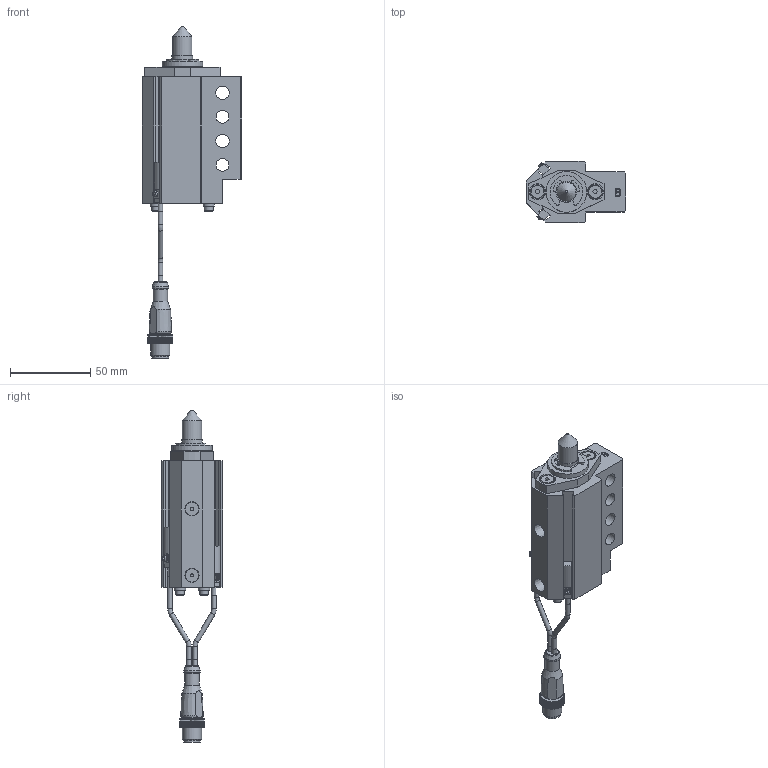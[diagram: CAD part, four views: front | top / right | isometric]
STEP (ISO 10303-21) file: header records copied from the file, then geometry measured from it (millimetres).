
FILE_DESCRIPTION(/* description */ ('NAAMS FLOATING MICRO PIN'),/* implementation_level */ '2;1');
FILE_NAME(/* name */ 'C:\Vault Workspace\CAD\Welker\Shot Pin\NMP\NMP120012ABNL3.stp',/* time_stamp */ '2021-01-27T10:14:33-05:00',/* author */ ('WELKER'),/* organization */ (''),/* preprocessor_version */ 'ST-DEVELOPER v18.1',/* originating_system */ 'Autodesk Inventor 2020',/* authorisation */ '');
FILE_SCHEMA (('AUTOMOTIVE_DESIGN { 1 0 10303 214 3 1 1 }'));
Length unit declared in the file: millimetre
Products named in the file (16): NMPL01; NMP L3 SWITCH; L3 Connector; L3 Sensor 1; L3 Sensor 2; L3 Sensor cable; L3 Sensor cable 2; M3X0.5-8 SHCS; NL3; NMPE06; NMPE03; NMPE05-DIA-LENGTH; 985432A218; NMPE01B-PORT; RMPE02; M5X5 SHOULDER
Assembly tree (22 placements, depth 3):
  NMPL01
    NMP L3 SWITCH
      L3 Connector
      L3 Sensor 1
      L3 Sensor 2
      L3 Sensor cable
      L3 Sensor cable 2
    M3X0.5-8 SHCS  x4
    NL3  x4
    NMPE06
    NMPE03
    NMPE05-DIA-LENGTH
    985432A218
    NMPE01B-PORT
    RMPE02
    M5X5 SHOULDER  x2
Bounding box: 62 x 38.1 x 207.12 mm (x, y, z)
Volume: 111439.4 mm3; surface area: 45322.1 mm2
Topology: 21 solids, 21 shells, 758 faces, 2052 edges, 1372 vertices
Faces by surface type: plane 553, cylinder 144, cone 31, bspline 16, torus 11, sphere 3
Full cylindrical faces by diameter (mm): 2 x2, 2.459 x4, 2.9 x10, 3 x5, 3.242 x2, 3.4 x4, 4 x2, 5 x6, 5.5 x4, 7 x4, 8 x2, 8.3 x2, 8.376 x2, 9 x3, 10 x3, 10.4 x1, 10.5 x1, 12 x2, 13 x3, 16 x2, 19.05 x3, 21 x1, 22.5 x1, 23.672 x1, 24 x1, 25.4 x1, 25.5 x1, 26.5 x1, 28.677 x1, 29.21 x1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
Entity records: 23201 total; most frequent: CARTESIAN_POINT 4367, ORIENTED_EDGE 3802, DIRECTION 3727, EDGE_CURVE 1901, LINE 1393, VECTOR 1393, VERTEX_POINT 1277, AXIS2_PLACEMENT_3D 1167
